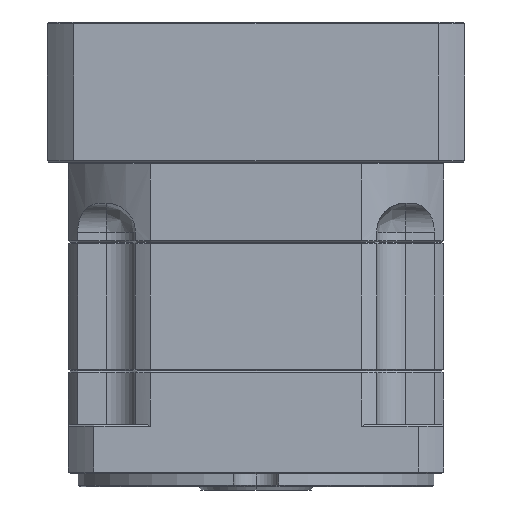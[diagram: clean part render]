
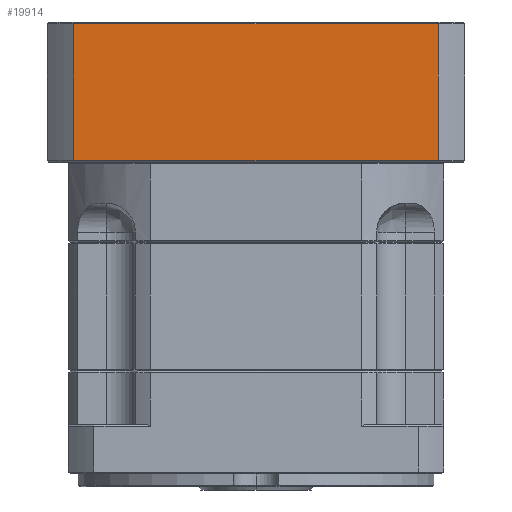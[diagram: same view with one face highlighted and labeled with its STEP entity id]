
A CAD part, left-side view. The second image highlights one B-rep face of the part: STEP entity #19914.
In plain terms, the highlighted planar face has unit normal (-1, 0, 0).
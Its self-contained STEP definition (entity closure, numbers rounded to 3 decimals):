
#664 = ORIENTED_EDGE ( 'NONE', *, *, #84099, .T. ) ;
#1288 = LINE ( 'NONE', #12556, #76669 ) ;
#6840 = EDGE_CURVE ( 'NONE', #98392, #21382, #68074, .T. ) ;
#12556 = CARTESIAN_POINT ( 'NONE',  ( 19.514, 17.511, 17.24 ) ) ;
#16715 = CARTESIAN_POINT ( 'NONE',  ( 19.514, 137.449, 59.24 ) ) ;
#19914 = ADVANCED_FACE ( 'NONE', ( #82106 ), #117170, .F. ) ;
#21382 = VERTEX_POINT ( 'NONE', #43406 ) ;
#22417 = ORIENTED_EDGE ( 'NONE', *, *, #6840, .F. ) ;
#22628 = CARTESIAN_POINT ( 'NONE',  ( 19.514, 137.449, 59.74 ) ) ;
#33757 = LINE ( 'NONE', #22628, #38464 ) ;
#36093 = CARTESIAN_POINT ( 'NONE',  ( 19.514, 137.449, 17.24 ) ) ;
#37417 = EDGE_CURVE ( 'NONE', #128178, #125168, #33757, .T. ) ;
#38464 = VECTOR ( 'NONE', #104476, 1000. ) ;
#43406 = CARTESIAN_POINT ( 'NONE',  ( 19.514, 25.574, 17.24 ) ) ;
#45135 = LINE ( 'NONE', #48558, #89900 ) ;
#48558 = CARTESIAN_POINT ( 'NONE',  ( 19.514, 17.511, 59.24 ) ) ;
#52970 = AXIS2_PLACEMENT_3D ( 'NONE', #98355, #118030, #55859 ) ;
#55859 = DIRECTION ( 'NONE',  ( 0., 1., 0. ) ) ;
#59364 = DIRECTION ( 'NONE',  ( 0., -1., 0. ) ) ;
#68074 = LINE ( 'NONE', #130341, #93628 ) ;
#69582 = EDGE_LOOP ( 'NONE', ( #664, #22417, #75546, #92159 ) ) ;
#75546 = ORIENTED_EDGE ( 'NONE', *, *, #124600, .F. ) ;
#76669 = VECTOR ( 'NONE', #124867, 1000. ) ;
#79353 = DIRECTION ( 'NONE',  ( 0., 0., -1. ) ) ;
#82106 = FACE_OUTER_BOUND ( 'NONE', #69582, .T. ) ;
#84099 = EDGE_CURVE ( 'NONE', #128178, #21382, #1288, .T. ) ;
#87267 = CARTESIAN_POINT ( 'NONE',  ( 19.514, 25.574, 59.24 ) ) ;
#89900 = VECTOR ( 'NONE', #59364, 1000. ) ;
#92159 = ORIENTED_EDGE ( 'NONE', *, *, #37417, .F. ) ;
#93628 = VECTOR ( 'NONE', #79353, 1000. ) ;
#98355 = CARTESIAN_POINT ( 'NONE',  ( 19.514, 17.511, 59.74 ) ) ;
#98392 = VERTEX_POINT ( 'NONE', #87267 ) ;
#104476 = DIRECTION ( 'NONE',  ( 0., 0., 1. ) ) ;
#117170 = PLANE ( 'NONE',  #52970 ) ;
#118030 = DIRECTION ( 'NONE',  ( 1., 0., 0. ) ) ;
#124600 = EDGE_CURVE ( 'NONE', #125168, #98392, #45135, .T. ) ;
#124867 = DIRECTION ( 'NONE',  ( 0., -1., 0. ) ) ;
#125168 = VERTEX_POINT ( 'NONE', #16715 ) ;
#128178 = VERTEX_POINT ( 'NONE', #36093 ) ;
#130341 = CARTESIAN_POINT ( 'NONE',  ( 19.514, 25.574, -226.081 ) ) ;
